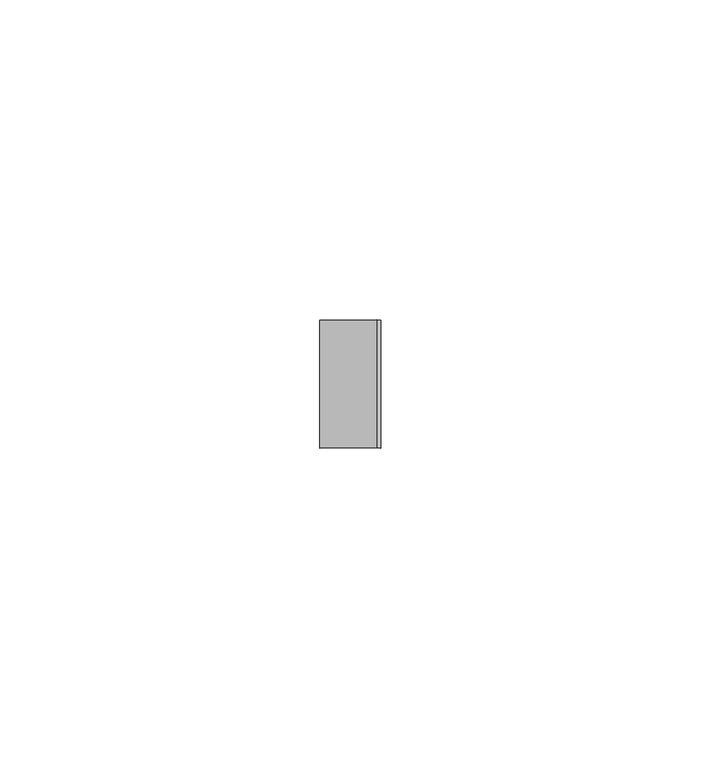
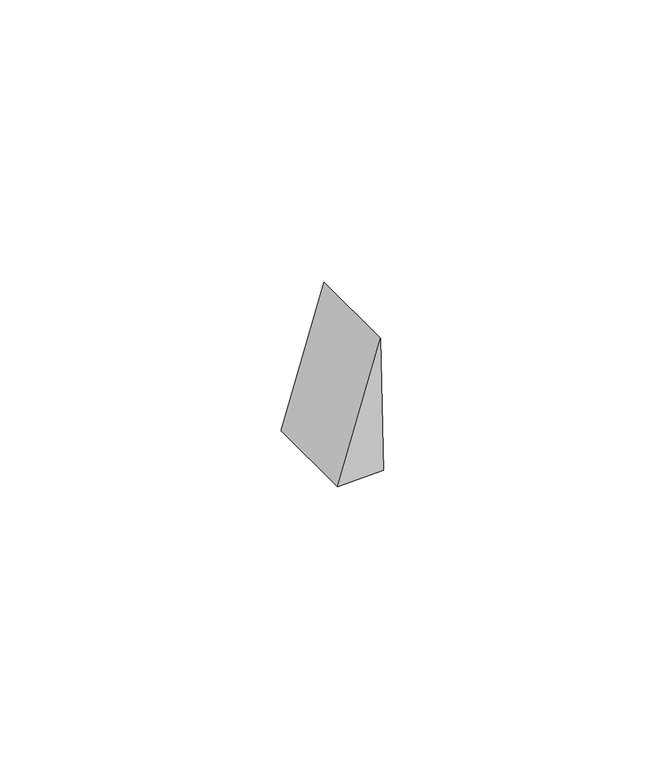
"""IFC4 building model written with IfcOpenShell, lengths in millimetres: plate geometry, 空系统嵌板 : 空."""

from ifc_helpers import new_model, si_unit, frame, origin, place, context, project, spatial, polyline, outline, extrude, source, transform, mapped, element, save


def plate_f5328a12(model_context):
    return source(origin(), model_context, "Body", "SweptSolid", [
        extrude(outline(polyline([(0.0, -4.7291294), (0.2075509, 4.7291294), (29.0848731, 4.1113506), (0.0, -4.7291294)])), frame((0.0, -10.0, 0.0), z_axis=(0.0, 1.0, 0.0), x_axis=(0.0, 0.0, 1.0)), (0.0, 0.0, 1.0), 20.0),
    ])


if __name__ == "__main__":
    model = new_model("IFC4")
    model_context = context("Model", 3, world=origin())
    ifc_project = project(units=[si_unit("LENGTHUNIT", "METRE", prefix="MILLI")], contexts=[model_context])
    site = spatial("IfcSite", under=ifc_project)
    building = spatial("IfcBuilding", under=site)
    placement = place(None, origin())
    plate_shape = plate_f5328a12(model_context)
    element("IfcPlate", 1, ObjectType="空系统嵌板 : 空", at=placement, inside=building, context=model_context, shape_type="MappedRepresentation", body=[
        mapped(plate_shape, transform((0.0, 0.0, 0.0), x_axis=(1.0, 0.0, 0.0), y_axis=(0.0, 1.0, 0.0), z_axis=(0.0, 0.0, 1.0))),
    ])
    save(model, "model.ifc")
